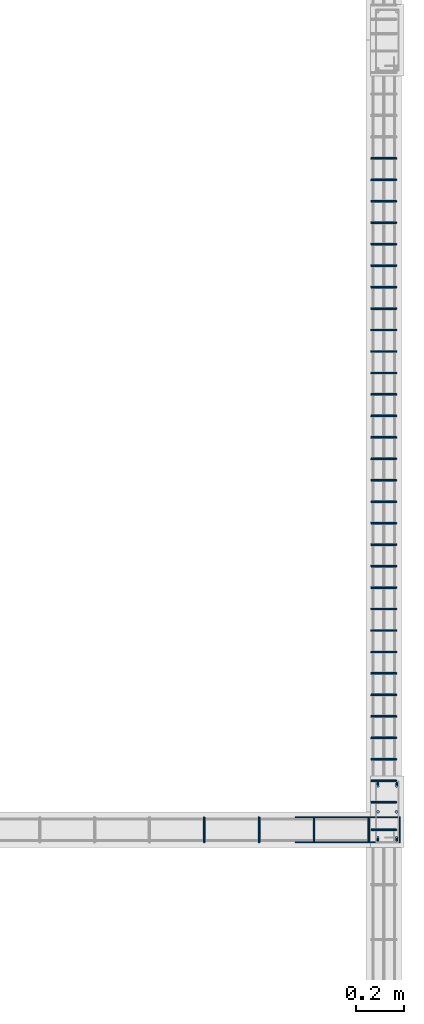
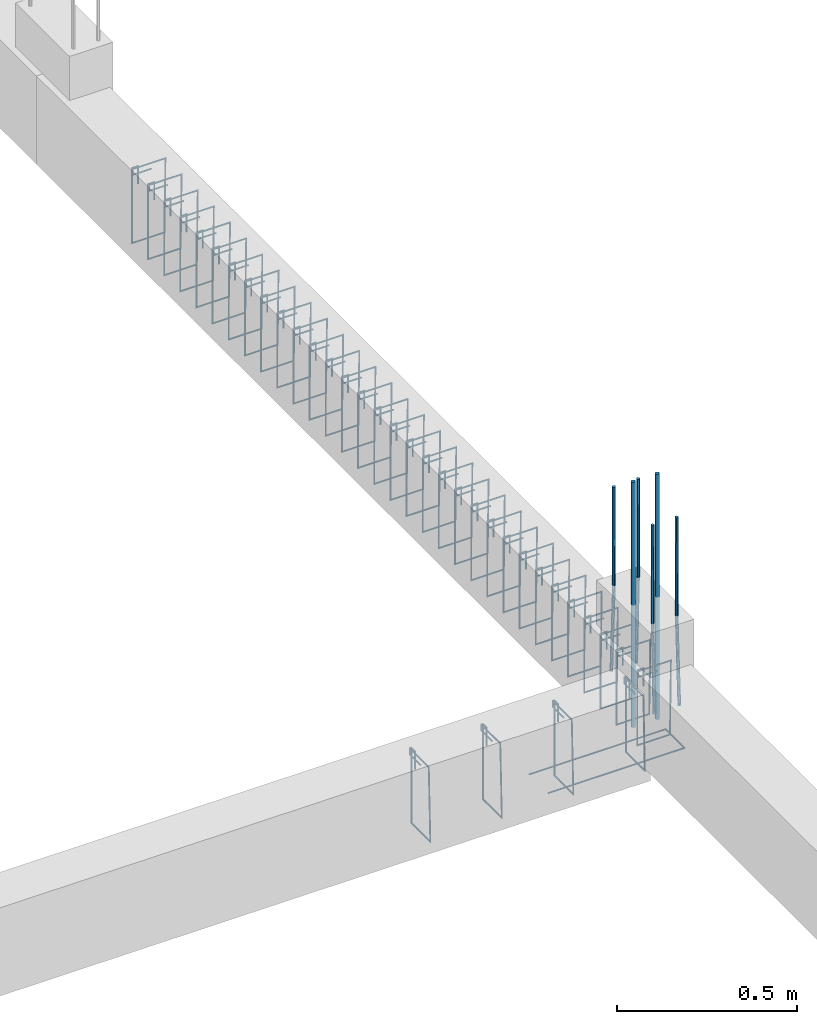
# One storey, part 94 of 150: 43 reinforcing bars.
"""IFC4 building model written with IfcOpenShell, lengths in centimetres."""

from ifc_helpers import new_model, entity, si_unit, derived_unit, frame, origin_with_axes, place, context, project, spatial, source, transform, mapped, element, save


model = new_model("IFC4")

# Units and contexts
model_context = context("Model", 3, precision=1e-05, world=origin_with_axes(), identifier="Body")
ifc_project = project(units=[si_unit("LENGTHUNIT", "METRE", prefix="CENTI"), si_unit("VOLUMEUNIT", "CUBIC_METRE"), si_unit("AREAUNIT", "SQUARE_METRE"), si_unit("POWERUNIT", "WATT"), si_unit("LUMINOUSFLUXUNIT", "LUMEN"), si_unit("ELECTRICCURRENTUNIT", "AMPERE"), si_unit("PRESSUREUNIT", "PASCAL", prefix="KILO"), si_unit("MASSUNIT", "GRAM", prefix="KILO"), si_unit("PLANEANGLEUNIT", "RADIAN"), derived_unit("VOLUMETRICFLOWRATEUNIT", [(si_unit("LENGTHUNIT", "METRE"), 3), (si_unit("TIMEUNIT", "SECOND"), -1)])], contexts=[model_context])

# Site, building, storey
site_placement = place(None, frame((-4000.0, 0.0, 0.0), z_axis=(0.0, 0.0, 1.0), x_axis=(1.0, 0.0, 0.0)))
site = spatial("IfcSite", under=ifc_project, at=site_placement, Name="PADRÃO")
building_placement = place(site_placement, frame((0.0, 0.0, -14.0)))
building = spatial("IfcBuilding", under=site, at=building_placement, Name="CRECHE PRÉ-ESCOLA TIPO 2")
placement = place(building_placement, origin_with_axes())
storey_placement = place(placement, frame((0.0, 0.0, 30.0), z_axis=(0.0, 0.0, 1.0), x_axis=(1.0, 0.0, 0.0)))
storey = spatial("IfcBuildingStorey", under=building, at=storey_placement, Name="VIGA BALDRAME", CompositionType="ELEMENT", Elevation=16.0)

# Reinforcing bars
shared_shape_1 = source(origin_with_axes(), model_context, "Body", "AdvancedSweptSolid", [
    entity("IfcSweptDiskSolid", entity("IfcCompositeCurve", [entity("IfcCompositeCurveSegment", "CONTINUOUS", True, entity("IfcPolyline", [entity("IfcCartesianPoint", [2.0, -6.0, 0.0]), entity("IfcCartesianPoint", [2.0, 0.0, 0.0])])), entity("IfcCompositeCurveSegment", "CONTINUOUS", True, entity("IfcPolyline", [entity("IfcCartesianPoint", [2.0, 0.0, 0.0]), entity("IfcCartesianPoint", [0.0, 0.0, 0.0])])), entity("IfcCompositeCurveSegment", "CONTINUOUS", True, entity("IfcPolyline", [entity("IfcCartesianPoint", [0.0, 0.0, 0.0]), entity("IfcCartesianPoint", [0.0, -25.5, 0.0])])), entity("IfcCompositeCurveSegment", "CONTINUOUS", True, entity("IfcPolyline", [entity("IfcCartesianPoint", [0.0, -25.5, 0.0]), entity("IfcCartesianPoint", [10.5, -25.5, 0.0])])), entity("IfcCompositeCurveSegment", "CONTINUOUS", True, entity("IfcPolyline", [entity("IfcCartesianPoint", [10.5, -25.5, 0.0]), entity("IfcCartesianPoint", [10.5, 0.0, 0.5])])), entity("IfcCompositeCurveSegment", "CONTINUOUS", True, entity("IfcPolyline", [entity("IfcCartesianPoint", [10.5, 0.0, 0.5]), entity("IfcCartesianPoint", [0.0, 0.0, 0.5])])), entity("IfcCompositeCurveSegment", "CONTINUOUS", True, entity("IfcPolyline", [entity("IfcCartesianPoint", [0.0, 0.0, 0.5]), entity("IfcCartesianPoint", [0.0, -2.0, 0.5])])), entity("IfcCompositeCurveSegment", "CONTINUOUS", True, entity("IfcPolyline", [entity("IfcCartesianPoint", [0.0, -2.0, 0.5]), entity("IfcCartesianPoint", [6.0, -2.0, 0.5])]))], False), 0.25),
])
reinforcing_bar_1_placement = place(storey_placement, frame((3986.25, 515.255, -17.25), z_axis=(0.0, -1.0, 0.0), x_axis=(1.0, 0.0, 0.0)))
element("IfcReinforcingBar", 1, at=reinforcing_bar_1_placement, inside=storey, Name="V230 - Estribo", BarLength=0.0, CrossSectionArea=1.9634954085e-05, NominalDiameter=0.5, PredefinedType="MAIN", context=model_context, shape_type="MappedRepresentation", body=[
    mapped(shared_shape_1, transform((0.0, 0.0, 0.0), scale=1.0)),
])
shared_shape_2 = source(origin_with_axes(), model_context, "Body", "AdvancedSweptSolid", [
    entity("IfcSweptDiskSolid", entity("IfcCompositeCurve", [entity("IfcCompositeCurveSegment", "CONTINUOUS", True, entity("IfcPolyline", [entity("IfcCartesianPoint", [2.0, -6.0, 0.0]), entity("IfcCartesianPoint", [2.0, 0.0, 0.0])])), entity("IfcCompositeCurveSegment", "CONTINUOUS", True, entity("IfcPolyline", [entity("IfcCartesianPoint", [2.0, 0.0, 0.0]), entity("IfcCartesianPoint", [0.0, 0.0, 0.0])])), entity("IfcCompositeCurveSegment", "CONTINUOUS", True, entity("IfcPolyline", [entity("IfcCartesianPoint", [0.0, 0.0, 0.0]), entity("IfcCartesianPoint", [0.0, -25.5, 0.0])])), entity("IfcCompositeCurveSegment", "CONTINUOUS", True, entity("IfcPolyline", [entity("IfcCartesianPoint", [0.0, -25.5, 0.0]), entity("IfcCartesianPoint", [10.5, -25.5, 0.0])])), entity("IfcCompositeCurveSegment", "CONTINUOUS", True, entity("IfcPolyline", [entity("IfcCartesianPoint", [10.5, -25.5, 0.0]), entity("IfcCartesianPoint", [10.5, 0.0, 0.5])])), entity("IfcCompositeCurveSegment", "CONTINUOUS", True, entity("IfcPolyline", [entity("IfcCartesianPoint", [10.5, 0.0, 0.5]), entity("IfcCartesianPoint", [0.0, 0.0, 0.5])])), entity("IfcCompositeCurveSegment", "CONTINUOUS", True, entity("IfcPolyline", [entity("IfcCartesianPoint", [0.0, 0.0, 0.5]), entity("IfcCartesianPoint", [0.0, -2.0, 0.5])])), entity("IfcCompositeCurveSegment", "CONTINUOUS", True, entity("IfcPolyline", [entity("IfcCartesianPoint", [0.0, -2.0, 0.5]), entity("IfcCartesianPoint", [6.0, -2.0, 0.5])]))], False), 0.25),
])
for number, where, z_axis, x_axis, name in (
    (2, (3986.25, 742.81, -17.25), (0.0, -1.0, 0.0), (1.0, 0.0, 0.0), "V230 - Estribo"),
    (3, (3986.25, 751.81, -17.25), (0.0, -1.0, 0.0), (1.0, 0.0, 0.0), "V230 - Estribo"),
    (4, (3986.25, 760.81, -17.25), (0.0, -1.0, 0.0), (1.0, 0.0, 0.0), "V230 - Estribo"),
    (5, (3986.25, 769.81, -17.25), (0.0, -1.0, 0.0), (1.0, 0.0, 0.0), "V230 - Estribo"),
    (6, (3986.25, 778.81, -17.25), (0.0, -1.0, 0.0), (1.0, 0.0, 0.0), "V230 - Estribo"),
    (7, (3986.25, 787.81, -17.25), (0.0, -1.0, 0.0), (1.0, 0.0, 0.0), "V230 - Estribo"),
    (8, (3986.25, 796.81, -17.25), (0.0, -1.0, 0.0), (1.0, 0.0, 0.0), "V230 - Estribo"),
    (9, (3986.25, 589.81, -17.25), (0.0, -1.0, 0.0), (1.0, 0.0, 0.0), "V230 - Estribo"),
    (10, (3986.25, 526.81, -17.25), (0.0, -1.0, 0.0), (1.0, 0.0, 0.0), "V230 - Estribo"),
    (11, (3986.25, 535.81, -17.25), (0.0, -1.0, 0.0), (1.0, 0.0, 0.0), "V230 - Estribo"),
    (12, (3986.25, 544.81, -17.25), (0.0, -1.0, 0.0), (1.0, 0.0, 0.0), "V230 - Estribo"),
    (13, (3986.25, 553.81, -17.25), (0.0, -1.0, 0.0), (1.0, 0.0, 0.0), "V230 - Estribo"),
    (14, (3986.25, 562.81, -17.25), (0.0, -1.0, 0.0), (1.0, 0.0, 0.0), "V230 - Estribo"),
    (15, (3986.25, 571.81, -17.25), (0.0, -1.0, 0.0), (1.0, 0.0, 0.0), "V230 - Estribo"),
    (16, (3986.25, 580.81, -17.25), (0.0, -1.0, 0.0), (1.0, 0.0, 0.0), "V230 - Estribo"),
    (17, (3986.25, 598.81, -17.25), (0.0, -1.0, 0.0), (1.0, 0.0, 0.0), "V230 - Estribo"),
    (18, (3986.25, 607.81, -17.25), (0.0, -1.0, 0.0), (1.0, 0.0, 0.0), "V230 - Estribo"),
    (19, (3986.25, 616.81, -17.25), (0.0, -1.0, 0.0), (1.0, 0.0, 0.0), "V230 - Estribo"),
    (20, (3986.25, 625.81, -17.25), (0.0, -1.0, 0.0), (1.0, 0.0, 0.0), "V230 - Estribo"),
    (21, (3986.25, 634.81, -17.25), (0.0, -1.0, 0.0), (1.0, 0.0, 0.0), "V230 - Estribo"),
    (22, (3986.25, 643.81, -17.25), (0.0, -1.0, 0.0), (1.0, 0.0, 0.0), "V230 - Estribo"),
    (23, (3986.25, 652.81, -17.25), (0.0, -1.0, 0.0), (1.0, 0.0, 0.0), "V230 - Estribo"),
    (24, (3986.25, 661.81, -17.25), (0.0, -1.0, 0.0), (1.0, 0.0, 0.0), "V230 - Estribo"),
    (25, (3986.25, 670.81, -17.25), (0.0, -1.0, 0.0), (1.0, 0.0, 0.0), "V230 - Estribo"),
    (26, (3986.25, 679.81, -17.25), (0.0, -1.0, 0.0), (1.0, 0.0, 0.0), "V230 - Estribo"),
    (27, (3986.25, 688.81, -17.25), (0.0, -1.0, 0.0), (1.0, 0.0, 0.0), "V230 - Estribo"),
    (28, (3986.25, 697.81, -17.25), (0.0, -1.0, 0.0), (1.0, 0.0, 0.0), "V230 - Estribo"),
    (29, (3986.25, 706.81, -17.25), (0.0, -1.0, 0.0), (1.0, 0.0, 0.0), "V230 - Estribo"),
    (30, (3986.25, 715.81, -17.25), (0.0, -1.0, 0.0), (1.0, 0.0, 0.0), "V230 - Estribo"),
    (31, (3986.25, 724.81, -17.25), (0.0, -1.0, 0.0), (1.0, 0.0, 0.0), "V230 - Estribo"),
    (32, (3986.25, 733.81, -17.25), (0.0, -1.0, 0.0), (1.0, 0.0, 0.0), "V230 - Estribo"),
):
    element("IfcReinforcingBar", number, at=place(storey_placement, frame(where, z_axis=z_axis, x_axis=x_axis)), inside=storey, Name=name, BarLength=0.0, CrossSectionArea=1.9634954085e-05, NominalDiameter=0.5, PredefinedType="MAIN", context=model_context, shape_type="MappedRepresentation", body=[
        mapped(shared_shape_2, transform((0.0, 0.0, 0.0), scale=1.0)),
    ])
shared_shape_3 = source(origin_with_axes(), model_context, "Body", "AdvancedSweptSolid", [
    entity("IfcSweptDiskSolid", entity("IfcCompositeCurve", [entity("IfcCompositeCurveSegment", "CONTINUOUS", True, entity("IfcPolyline", [entity("IfcCartesianPoint", [2.0, -6.0, 0.0]), entity("IfcCartesianPoint", [2.0, 0.0, 0.0])])), entity("IfcCompositeCurveSegment", "CONTINUOUS", True, entity("IfcPolyline", [entity("IfcCartesianPoint", [2.0, 0.0, 0.0]), entity("IfcCartesianPoint", [0.0, 0.0, 0.0])])), entity("IfcCompositeCurveSegment", "CONTINUOUS", True, entity("IfcPolyline", [entity("IfcCartesianPoint", [0.0, 0.0, 0.0]), entity("IfcCartesianPoint", [0.0, -25.5, 0.0])])), entity("IfcCompositeCurveSegment", "CONTINUOUS", True, entity("IfcPolyline", [entity("IfcCartesianPoint", [0.0, -25.5, 0.0]), entity("IfcCartesianPoint", [10.5, -25.5, 0.0])])), entity("IfcCompositeCurveSegment", "CONTINUOUS", True, entity("IfcPolyline", [entity("IfcCartesianPoint", [10.5, -25.5, 0.0]), entity("IfcCartesianPoint", [10.5, 0.0, 0.5])])), entity("IfcCompositeCurveSegment", "CONTINUOUS", True, entity("IfcPolyline", [entity("IfcCartesianPoint", [10.5, 0.0, 0.5]), entity("IfcCartesianPoint", [0.0, 0.0, 0.5])])), entity("IfcCompositeCurveSegment", "CONTINUOUS", True, entity("IfcPolyline", [entity("IfcCartesianPoint", [0.0, 0.0, 0.5]), entity("IfcCartesianPoint", [0.0, -2.0, 0.5])])), entity("IfcCompositeCurveSegment", "CONTINUOUS", True, entity("IfcPolyline", [entity("IfcCartesianPoint", [0.0, -2.0, 0.5]), entity("IfcCartesianPoint", [6.0, -2.0, 0.5])]))], False), 0.25),
])
for number, where, z_axis, x_axis, name in (
    (33, (3985.5, 520.26, -22.25), (-1.0, 0.0, 0.0), (0.0, -1.0, 0.0), "V153 - Estribo"),
    (34, (3962.5, 520.26, -22.25), (-1.0, 0.0, 0.0), (0.0, -1.0, 0.0), "V153 - Estribo"),
    (35, (3939.5, 520.26, -22.25), (-1.0, 0.0, 0.0), (0.0, -1.0, 0.0), "V153 - Estribo"),
    (36, (3916.5, 520.26, -22.25), (-1.0, 0.0, 0.0), (0.0, -1.0, 0.0), "V153 - Estribo"),
):
    element("IfcReinforcingBar", number, at=place(storey_placement, frame(where, z_axis=z_axis, x_axis=x_axis)), inside=storey, Name=name, BarLength=0.0, CrossSectionArea=1.9634954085e-05, NominalDiameter=0.5, PredefinedType="MAIN", context=model_context, shape_type="MappedRepresentation", body=[
        mapped(shared_shape_3, transform((0.0, 0.0, 0.0), scale=1.0)),
    ])
shared_shape_4 = source(origin_with_axes(), model_context, "Body", "AdvancedSweptSolid", [
    entity("IfcSweptDiskSolid", entity("IfcCompositeCurve", [entity("IfcCompositeCurveSegment", "CONTINUOUS", True, entity("IfcPolyline", [entity("IfcCartesianPoint", [0.0, 0.0, 0.0]), entity("IfcCartesianPoint", [43.9159679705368, 0.0, 0.0])])), entity("IfcCompositeCurveSegment", "CONTINUOUS", True, entity("IfcPolyline", [entity("IfcCartesianPoint", [43.9159679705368, 0.0, 0.0]), entity("IfcCartesianPoint", [43.9159679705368, 10.5, 0.0])])), entity("IfcCompositeCurveSegment", "CONTINUOUS", True, entity("IfcPolyline", [entity("IfcCartesianPoint", [43.9159679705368, 10.5, 0.0]), entity("IfcCartesianPoint", [0.0, 10.5, 0.0])]))], False), 0.25),
])
reinforcing_bar_2_placement = place(storey_placement, frame((3954.33403202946, 509.76, -44.5), z_axis=(0.0, 0.0, 1.0), x_axis=(1.0, 0.0, 0.0)))
element("IfcReinforcingBar", 37, at=reinforcing_bar_2_placement, inside=storey, Name="V153 - Grampo", BarLength=0.0, CrossSectionArea=1.9634954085e-05, NominalDiameter=0.5, PredefinedType="MAIN", context=model_context, shape_type="MappedRepresentation", body=[
    mapped(shared_shape_4, transform((0.0, 0.0, 0.0), scale=1.0)),
])
reinforcing_bar_3_placement = place(storey_placement, frame((3989.0625, 533.88478219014, 33.3573001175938), z_axis=(0.0, 0.0, 1.0), x_axis=(1.0, 0.0, 0.0)))
element("IfcReinforcingBar", 38, at=reinforcing_bar_3_placement, inside=storey, Name="P142 - Longitudinal", BarLength=0.0, CrossSectionArea=7.853981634e-05, NominalDiameter=1.0, PredefinedType="MAIN", context=model_context, shape_type="AdvancedSweptSolid", body=[
    entity("IfcSweptDiskSolid", entity("IfcCompositeCurve", [entity("IfcCompositeCurveSegment", "CONTINUOUS", True, entity("IfcPolyline", [entity("IfcCartesianPoint", [-0.0625, 0.62521780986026, -63.3573001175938]), entity("IfcCartesianPoint", [0.0625, -0.62478219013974, -33.3573001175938])])), entity("IfcCompositeCurveSegment", "CONTINUOUS", True, entity("IfcPolyline", [entity("IfcCartesianPoint", [0.0625, -0.62478219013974, -33.3573001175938]), entity("IfcCartesianPoint", [0.0625, -0.62478219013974, 0.0])]))], False), 0.5),
])
reinforcing_bar_4_placement = place(storey_placement, frame((3989.0625, 511.13521780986, 33.3573001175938), z_axis=(0.0, 0.0, 1.0), x_axis=(1.0, 0.0, 0.0)))
element("IfcReinforcingBar", 39, at=reinforcing_bar_4_placement, inside=storey, Name="P142 - Longitudinal", BarLength=0.0, CrossSectionArea=7.853981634e-05, NominalDiameter=1.0, PredefinedType="MAIN", context=model_context, shape_type="AdvancedSweptSolid", body=[
    entity("IfcSweptDiskSolid", entity("IfcCompositeCurve", [entity("IfcCompositeCurveSegment", "CONTINUOUS", True, entity("IfcPolyline", [entity("IfcCartesianPoint", [-0.0625, -0.625217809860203, -63.3573001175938]), entity("IfcCartesianPoint", [0.0625, 0.624782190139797, -33.3573001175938])])), entity("IfcCompositeCurveSegment", "CONTINUOUS", True, entity("IfcPolyline", [entity("IfcCartesianPoint", [0.0625, 0.624782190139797, -33.3573001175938]), entity("IfcCartesianPoint", [0.0625, 0.624782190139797, 0.0])]))], False), 0.5),
])
reinforcing_bar_5_placement = place(storey_placement, frame((3996.9375, 511.13521780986, 33.3573001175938), z_axis=(0.0, 0.0, 1.0), x_axis=(1.0, 0.0, 0.0)))
element("IfcReinforcingBar", 40, at=reinforcing_bar_5_placement, inside=storey, Name="P142 - Longitudinal", BarLength=0.0, CrossSectionArea=7.853981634e-05, NominalDiameter=1.0, PredefinedType="MAIN", context=model_context, shape_type="AdvancedSweptSolid", body=[
    entity("IfcSweptDiskSolid", entity("IfcCompositeCurve", [entity("IfcCompositeCurveSegment", "CONTINUOUS", True, entity("IfcPolyline", [entity("IfcCartesianPoint", [0.0625, -0.625217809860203, -63.3573001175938]), entity("IfcCartesianPoint", [-0.0625, 0.624782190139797, -33.3573001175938])])), entity("IfcCompositeCurveSegment", "CONTINUOUS", True, entity("IfcPolyline", [entity("IfcCartesianPoint", [-0.0625, 0.624782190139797, -33.3573001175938]), entity("IfcCartesianPoint", [-0.0625, 0.624782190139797, 0.0])]))], False), 0.5),
])
reinforcing_bar_6_placement = place(storey_placement, frame((3996.9375, 533.88478219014, 33.3573001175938), z_axis=(0.0, 0.0, 1.0), x_axis=(1.0, 0.0, 0.0)))
element("IfcReinforcingBar", 41, at=reinforcing_bar_6_placement, inside=storey, Name="P142 - Longitudinal", BarLength=0.0, CrossSectionArea=7.853981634e-05, NominalDiameter=1.0, PredefinedType="MAIN", context=model_context, shape_type="AdvancedSweptSolid", body=[
    entity("IfcSweptDiskSolid", entity("IfcCompositeCurve", [entity("IfcCompositeCurveSegment", "CONTINUOUS", True, entity("IfcPolyline", [entity("IfcCartesianPoint", [0.0625, 0.62521780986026, -63.3573001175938]), entity("IfcCartesianPoint", [-0.0625, -0.62478219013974, -33.3573001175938])])), entity("IfcCompositeCurveSegment", "CONTINUOUS", True, entity("IfcPolyline", [entity("IfcCartesianPoint", [-0.0625, -0.62478219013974, -33.3573001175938]), entity("IfcCartesianPoint", [-0.0625, -0.62478219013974, 0.0])]))], False), 0.5),
])
for number, where, z_axis, x_axis, name in (
    (42, (3989.125, 522.51, 41.6966251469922), (0.0, 0.0, 1.0), (1.0, 0.0, 0.0), "P142 - Longitudinal"),
    (43, (3996.875, 522.51, 41.6966251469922), (0.0, 0.0, 1.0), (1.0, 0.0, 0.0), "P142 - Longitudinal"),
):
    element("IfcReinforcingBar", number, at=place(storey_placement, frame(where, z_axis=z_axis, x_axis=x_axis)), inside=storey, Name=name, BarLength=0.0, CrossSectionArea=0.000122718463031, NominalDiameter=1.25, PredefinedType="MAIN", context=model_context, shape_type="AdvancedSweptSolid", body=[
        entity("IfcSweptDiskSolid", entity("IfcCompositeCurve", [entity("IfcCompositeCurveSegment", "CONTINUOUS", True, entity("IfcPolyline", [entity("IfcCartesianPoint", [0.0, 0.0, -83.3932502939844]), entity("IfcCartesianPoint", [0.0, 0.0, 0.0])]))], False), 0.625),
    ])

save(model, "model.ifc")
